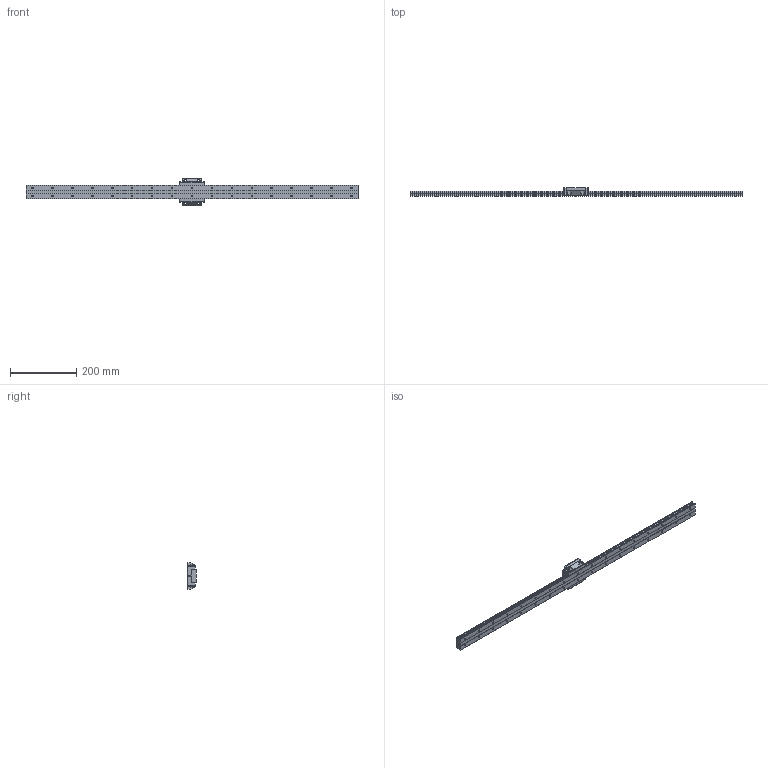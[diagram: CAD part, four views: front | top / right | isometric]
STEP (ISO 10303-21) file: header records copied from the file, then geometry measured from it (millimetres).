
FILE_DESCRIPTION( ( '' ), '1' );
FILE_NAME( 'C:/Users/v3-771-32344/Documents/Website 2016/STEP/SHW27CA1UU1000200463.6000.stp', '2016-11-10T12:44:05', ( '' ), ( '' ), ' ', ' ', ' ' );
FILE_SCHEMA( ( 'CONFIG_CONTROL_DESIGN' ) );
Length unit declared in the file: millimetre
Products named in the file (2): 1; 2
Bounding box: 1000 x 27 x 80 mm (x, y, z)
Volume: 653297.8 mm3; surface area: 146281.1 mm2
Topology: 2 solids, 2 shells, 364 faces, 938 edges, 610 vertices
Faces by surface type: cylinder 180, plane 152, cone 32
Entity records: 11474 total; most frequent: DIRECTION 2058, CARTESIAN_POINT 1998, ORIENTED_EDGE 1868, EDGE_CURVE 934, AXIS2_PLACEMENT_3D 766, VERTEX_POINT 610, LINE 526, VECTOR 526
